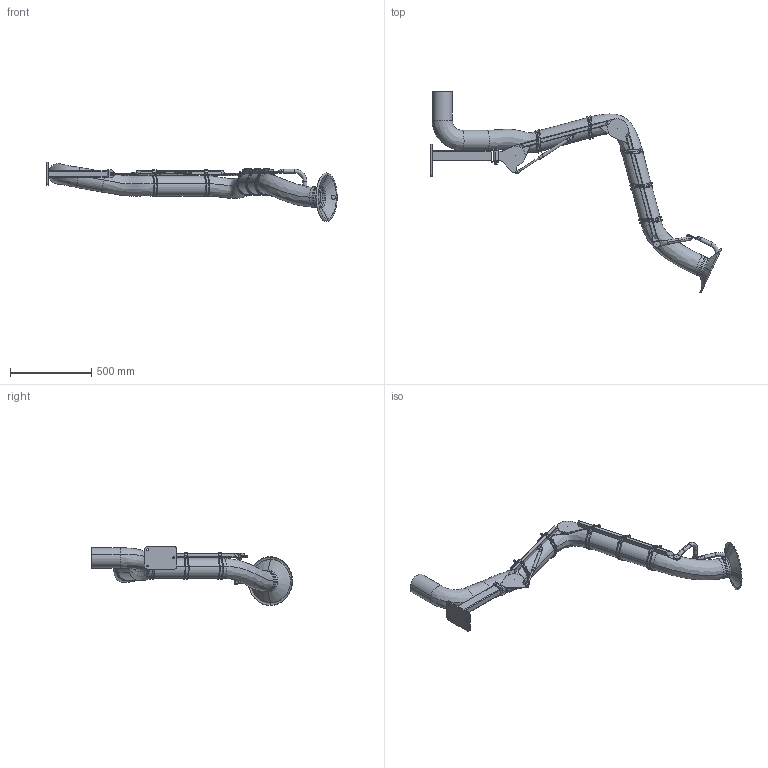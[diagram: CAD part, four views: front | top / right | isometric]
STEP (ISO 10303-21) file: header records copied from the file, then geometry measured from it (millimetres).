
FILE_DESCRIPTION((''),'2;1');
FILE_NAME('PSR_2000-125_EXD','2022-10-04T11:35:30',('Tomas Bellgran'),(''),'CREO PARAMETRIC BY PTC INC, 2018260','CREO PARAMETRIC BY PTC INC, 2018260','');
FILE_SCHEMA(('AUTOMOTIVE_DESIGN { 1 0 10303 214 1 1 1 1 }'));
Length unit declared in the file: millimetre
Products named in the file (34): 141554; 141580; 141581; 122701; 141512; 141556; 141582; 141587; 141522; 121391; 131150; 139381; 131151; 131171; 144356; 141589; 134343_AF0; G_P136_WELD-REF; 141590; 122717_LIGHT; 120127_COMPL_LIGHT; 130315; ROD_STAB_8-160-REF; 131095; 130320_AF26; 131145; 139635; 139656; 139614; 139630; 141639; 124460; 107522-11; PSR_2000-125_EXD
Assembly tree (49 placements, depth 3):
  PSR_2000-125_EXD
    141512
      141554
      141580
      141581
      122701
    141522
      141556
      141582
      141587
    121391  x4
    131150
    131171
      139381
      131151
    144356  x2
    141590
      141589
      134343_AF0
      G_P136_WELD-REF
    122717_LIGHT
    120127_COMPL_LIGHT
    130320_AF26
      130315
      ROD_STAB_8-160-REF
      131095  x2
    131145  x2
    139630
      139635  x3
      139656
      139614
    141639
    124460  x5
    107522-11  x5
Bounding box: 1785.47 x 1234.27 x 362.95 mm (x, y, z)
Volume: 32786649.2 mm3; surface area: 1815748.5 mm2
Topology: 43 solids, 43 shells, 1014 faces, 2412 edges, 1486 vertices
Faces by surface type: plane 364, cylinder 327, bspline 198, torus 66, cone 42, extrusion 15, sphere 2
Entity records: 35256 total; most frequent: CARTESIAN_POINT 12485, DIRECTION 2926, ORIENTED_EDGE 2664, PRESENTATION_STYLE_ASSIGNMENT 1850, STYLED_ITEM 1823, CURVE_STYLE 1339, EDGE_CURVE 1332, AXIS2_PLACEMENT_3D 1158
